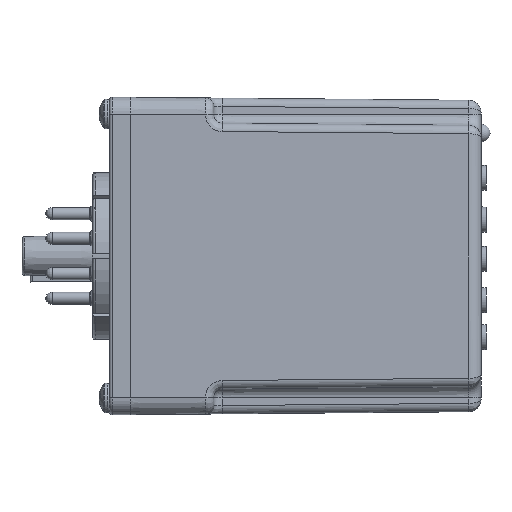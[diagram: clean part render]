
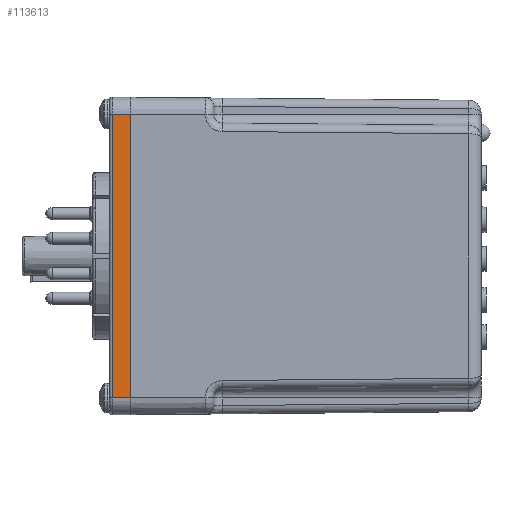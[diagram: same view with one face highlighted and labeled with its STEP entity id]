
A CAD part, left-side view. The second image highlights one B-rep face of the part: STEP entity #113613.
In plain terms, the highlighted planar face has unit normal (-1, 0, 0).
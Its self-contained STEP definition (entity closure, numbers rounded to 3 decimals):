
#93475 = PLANE('',#93476);
#93476 = AXIS2_PLACEMENT_3D('',#93477,#93478,#93479);
#93477 = CARTESIAN_POINT('',(-22.225,81.432,-30.163));
#93478 = DIRECTION('',(0.,1.,0.));
#93479 = DIRECTION('',(1.,0.,-0.));
#100398 = VERTEX_POINT('',#100399);
#100399 = CARTESIAN_POINT('',(-22.225,81.432,26.988));
#100418 = CYLINDRICAL_SURFACE('',#100419,3.175);
#100419 = AXIS2_PLACEMENT_3D('',#100420,#100421,#100422);
#100420 = CARTESIAN_POINT('',(-19.05,81.432,26.988));
#100421 = DIRECTION('',(0.,1.,0.));
#100422 = DIRECTION('',(0.,0.,-1.));
#100430 = EDGE_CURVE('',#100431,#100398,#100433,.T.);
#100431 = VERTEX_POINT('',#100432);
#100432 = CARTESIAN_POINT('',(-22.225,81.432,-26.988));
#100433 = SURFACE_CURVE('',#100434,(#100438,#100445),.PCURVE_S1.);
#100434 = LINE('',#100435,#100436);
#100435 = CARTESIAN_POINT('',(-22.225,81.432,-30.163));
#100436 = VECTOR('',#100437,1.);
#100437 = DIRECTION('',(0.,-0.,1.));
#100438 = PCURVE('',#93475,#100439);
#100439 = DEFINITIONAL_REPRESENTATION('',(#100440),#100444);
#100440 = LINE('',#100441,#100442);
#100441 = CARTESIAN_POINT('',(0.,0.));
#100442 = VECTOR('',#100443,1.);
#100443 = DIRECTION('',(0.,-1.));
#100444 = ( GEOMETRIC_REPRESENTATION_CONTEXT(2) 
PARAMETRIC_REPRESENTATION_CONTEXT() REPRESENTATION_CONTEXT('2D SPACE',''
  ) );
#100445 = PCURVE('',#100446,#100451);
#100446 = PLANE('',#100447);
#100447 = AXIS2_PLACEMENT_3D('',#100448,#100449,#100450);
#100448 = CARTESIAN_POINT('',(-22.225,81.432,-30.163));
#100449 = DIRECTION('',(1.,0.,0.));
#100450 = DIRECTION('',(0.,0.,-1.));
#100451 = DEFINITIONAL_REPRESENTATION('',(#100452),#100456);
#100452 = LINE('',#100453,#100454);
#100453 = CARTESIAN_POINT('',(0.,0.));
#100454 = VECTOR('',#100455,1.);
#100455 = DIRECTION('',(-1.,0.));
#100456 = ( GEOMETRIC_REPRESENTATION_CONTEXT(2) 
PARAMETRIC_REPRESENTATION_CONTEXT() REPRESENTATION_CONTEXT('2D SPACE',''
  ) );
#100479 = CYLINDRICAL_SURFACE('',#100480,3.175);
#100480 = AXIS2_PLACEMENT_3D('',#100481,#100482,#100483);
#100481 = CARTESIAN_POINT('',(-19.05,85.395,-26.988));
#100482 = DIRECTION('',(0.,-1.,0.));
#100483 = DIRECTION('',(0.,0.,1.));
#108692 = CYLINDRICAL_SURFACE('',#108693,0.508);
#108693 = AXIS2_PLACEMENT_3D('',#108694,#108695,#108696);
#108694 = CARTESIAN_POINT('',(-21.717,84.887,-30.163));
#108695 = DIRECTION('',(0.,0.,1.));
#108696 = DIRECTION('',(1.,0.,0.));
#113613 = ADVANCED_FACE('',(#113614),#100446,.F.);
#113614 = FACE_BOUND('',#113615,.T.);
#113615 = EDGE_LOOP('',(#113616,#113639,#113662,#113683));
#113616 = ORIENTED_EDGE('',*,*,#113617,.T.);
#113617 = EDGE_CURVE('',#100398,#113618,#113620,.T.);
#113618 = VERTEX_POINT('',#113619);
#113619 = CARTESIAN_POINT('',(-22.225,84.887,26.988));
#113620 = SURFACE_CURVE('',#113621,(#113625,#113632),.PCURVE_S1.);
#113621 = LINE('',#113622,#113623);
#113622 = CARTESIAN_POINT('',(-22.225,81.432,26.988));
#113623 = VECTOR('',#113624,1.);
#113624 = DIRECTION('',(0.,1.,0.));
#113625 = PCURVE('',#100446,#113626);
#113626 = DEFINITIONAL_REPRESENTATION('',(#113627),#113631);
#113627 = LINE('',#113628,#113629);
#113628 = CARTESIAN_POINT('',(-57.15,0.));
#113629 = VECTOR('',#113630,1.);
#113630 = DIRECTION('',(0.,1.));
#113631 = ( GEOMETRIC_REPRESENTATION_CONTEXT(2) 
PARAMETRIC_REPRESENTATION_CONTEXT() REPRESENTATION_CONTEXT('2D SPACE',''
  ) );
#113632 = PCURVE('',#100418,#113633);
#113633 = DEFINITIONAL_REPRESENTATION('',(#113634),#113638);
#113634 = LINE('',#113635,#113636);
#113635 = CARTESIAN_POINT('',(1.571,0.));
#113636 = VECTOR('',#113637,1.);
#113637 = DIRECTION('',(0.,1.));
#113638 = ( GEOMETRIC_REPRESENTATION_CONTEXT(2) 
PARAMETRIC_REPRESENTATION_CONTEXT() REPRESENTATION_CONTEXT('2D SPACE',''
  ) );
#113639 = ORIENTED_EDGE('',*,*,#113640,.T.);
#113640 = EDGE_CURVE('',#113618,#113641,#113643,.T.);
#113641 = VERTEX_POINT('',#113642);
#113642 = CARTESIAN_POINT('',(-22.225,84.887,-26.988));
#113643 = SURFACE_CURVE('',#113644,(#113648,#113655),.PCURVE_S1.);
#113644 = LINE('',#113645,#113646);
#113645 = CARTESIAN_POINT('',(-22.225,84.887,-30.163));
#113646 = VECTOR('',#113647,1.);
#113647 = DIRECTION('',(0.,0.,-1.));
#113648 = PCURVE('',#100446,#113649);
#113649 = DEFINITIONAL_REPRESENTATION('',(#113650),#113654);
#113650 = LINE('',#113651,#113652);
#113651 = CARTESIAN_POINT('',(0.,3.454));
#113652 = VECTOR('',#113653,1.);
#113653 = DIRECTION('',(1.,0.));
#113654 = ( GEOMETRIC_REPRESENTATION_CONTEXT(2) 
PARAMETRIC_REPRESENTATION_CONTEXT() REPRESENTATION_CONTEXT('2D SPACE',''
  ) );
#113655 = PCURVE('',#108692,#113656);
#113656 = DEFINITIONAL_REPRESENTATION('',(#113657),#113661);
#113657 = LINE('',#113658,#113659);
#113658 = CARTESIAN_POINT('',(3.142,0.));
#113659 = VECTOR('',#113660,1.);
#113660 = DIRECTION('',(0.,-1.));
#113661 = ( GEOMETRIC_REPRESENTATION_CONTEXT(2) 
PARAMETRIC_REPRESENTATION_CONTEXT() REPRESENTATION_CONTEXT('2D SPACE',''
  ) );
#113662 = ORIENTED_EDGE('',*,*,#113663,.T.);
#113663 = EDGE_CURVE('',#113641,#100431,#113664,.T.);
#113664 = SURFACE_CURVE('',#113665,(#113669,#113676),.PCURVE_S1.);
#113665 = LINE('',#113666,#113667);
#113666 = CARTESIAN_POINT('',(-22.225,81.432,-26.988));
#113667 = VECTOR('',#113668,1.);
#113668 = DIRECTION('',(0.,-1.,0.));
#113669 = PCURVE('',#100446,#113670);
#113670 = DEFINITIONAL_REPRESENTATION('',(#113671),#113675);
#113671 = LINE('',#113672,#113673);
#113672 = CARTESIAN_POINT('',(-3.175,0.));
#113673 = VECTOR('',#113674,1.);
#113674 = DIRECTION('',(0.,-1.));
#113675 = ( GEOMETRIC_REPRESENTATION_CONTEXT(2) 
PARAMETRIC_REPRESENTATION_CONTEXT() REPRESENTATION_CONTEXT('2D SPACE',''
  ) );
#113676 = PCURVE('',#100479,#113677);
#113677 = DEFINITIONAL_REPRESENTATION('',(#113678),#113682);
#113678 = LINE('',#113679,#113680);
#113679 = CARTESIAN_POINT('',(1.571,3.962));
#113680 = VECTOR('',#113681,1.);
#113681 = DIRECTION('',(0.,1.));
#113682 = ( GEOMETRIC_REPRESENTATION_CONTEXT(2) 
PARAMETRIC_REPRESENTATION_CONTEXT() REPRESENTATION_CONTEXT('2D SPACE',''
  ) );
#113683 = ORIENTED_EDGE('',*,*,#100430,.T.);
